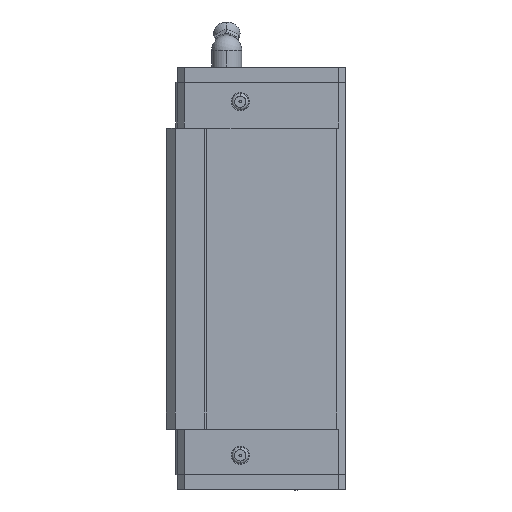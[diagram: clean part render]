
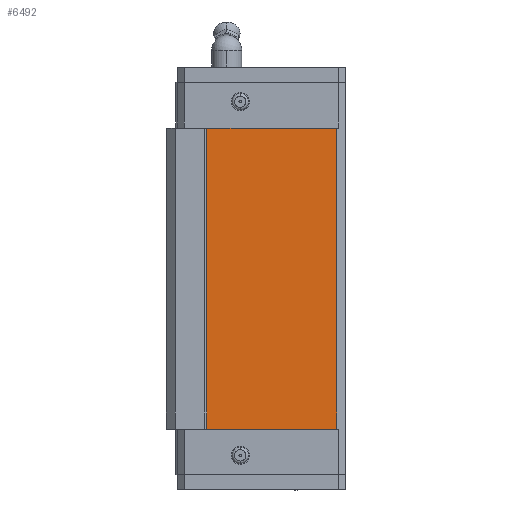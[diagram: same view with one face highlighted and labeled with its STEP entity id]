
A CAD part, left-side view. The second image highlights one B-rep face of the part: STEP entity #6492.
In plain terms, the highlighted planar face has unit normal (-1, 0, 0).
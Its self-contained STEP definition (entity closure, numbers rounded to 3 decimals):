
#79 = CARTESIAN_POINT ( 'NONE',  ( -34.459, 36.859, 40. ) ) ;
#80 = DIRECTION ( 'NONE',  ( 0., 0., 1. ) ) ;
#96 = CARTESIAN_POINT ( 'NONE',  ( -34.459, 2.38, 40. ) ) ;
#101 = DIRECTION ( 'NONE',  ( 0., 0., -1. ) ) ;
#229 = AXIS2_PLACEMENT_3D ( 'NONE', #10737, #10741, #10742 ) ;
#861 = EDGE_LOOP ( 'NONE', ( #11425, #11424, #11423, #11422 ) ) ;
#2891 = EDGE_CURVE ( 'NONE', #4330, #4112, #8184, .T. ) ;
#2892 = EDGE_CURVE ( 'NONE', #4111, #4335, #8188, .T. ) ;
#4111 = VERTEX_POINT ( 'NONE', #5190 ) ;
#4112 = VERTEX_POINT ( 'NONE', #5191 ) ;
#4330 = VERTEX_POINT ( 'NONE', #5411 ) ;
#4335 = VERTEX_POINT ( 'NONE', #5416 ) ;
#5190 = CARTESIAN_POINT ( 'NONE',  ( -34.459, 2.38, -40. ) ) ;
#5191 = CARTESIAN_POINT ( 'NONE',  ( -34.459, 36.859, 40. ) ) ;
#5411 = CARTESIAN_POINT ( 'NONE',  ( -34.459, 2.38, 40. ) ) ;
#5416 = CARTESIAN_POINT ( 'NONE',  ( -34.459, 36.859, -40. ) ) ;
#6492 = ADVANCED_FACE ( 'NONE', ( #9262 ), #10740, .F. ) ;
#7720 = EDGE_CURVE ( 'NONE', #4335, #4112, #9301, .T. ) ;
#7730 = EDGE_CURVE ( 'NONE', #4330, #4111, #9309, .T. ) ;
#8184 = LINE ( 'NONE', #10783, #8191 ) ;
#8188 = LINE ( 'NONE', #10787, #8193 ) ;
#8191 = VECTOR ( 'NONE', #10793, 1000. ) ;
#8193 = VECTOR ( 'NONE', #10795, 1000. ) ;
#9262 = FACE_OUTER_BOUND ( 'NONE', #861, .T. ) ;
#9301 = LINE ( 'NONE', #79, #9304 ) ;
#9304 = VECTOR ( 'NONE', #80, 1000. ) ;
#9309 = LINE ( 'NONE', #96, #9323 ) ;
#9323 = VECTOR ( 'NONE', #101, 1000. ) ;
#10737 = CARTESIAN_POINT ( 'NONE',  ( -34.459, 36.859, 40. ) ) ;
#10740 = PLANE ( 'NONE',  #229 ) ;
#10741 = DIRECTION ( 'NONE',  ( 1., 0., 0. ) ) ;
#10742 = DIRECTION ( 'NONE',  ( 0., 1., 0. ) ) ;
#10783 = CARTESIAN_POINT ( 'NONE',  ( -34.459, -14.84, 40. ) ) ;
#10787 = CARTESIAN_POINT ( 'NONE',  ( -34.459, -14.84, -40. ) ) ;
#10793 = DIRECTION ( 'NONE',  ( 0., 1., 0. ) ) ;
#10795 = DIRECTION ( 'NONE',  ( 0., 1., 0. ) ) ;
#11422 = ORIENTED_EDGE ( 'NONE', *, *, #2892, .F. ) ;
#11423 = ORIENTED_EDGE ( 'NONE', *, *, #7720, .F. ) ;
#11424 = ORIENTED_EDGE ( 'NONE', *, *, #2891, .T. ) ;
#11425 = ORIENTED_EDGE ( 'NONE', *, *, #7730, .F. ) ;
